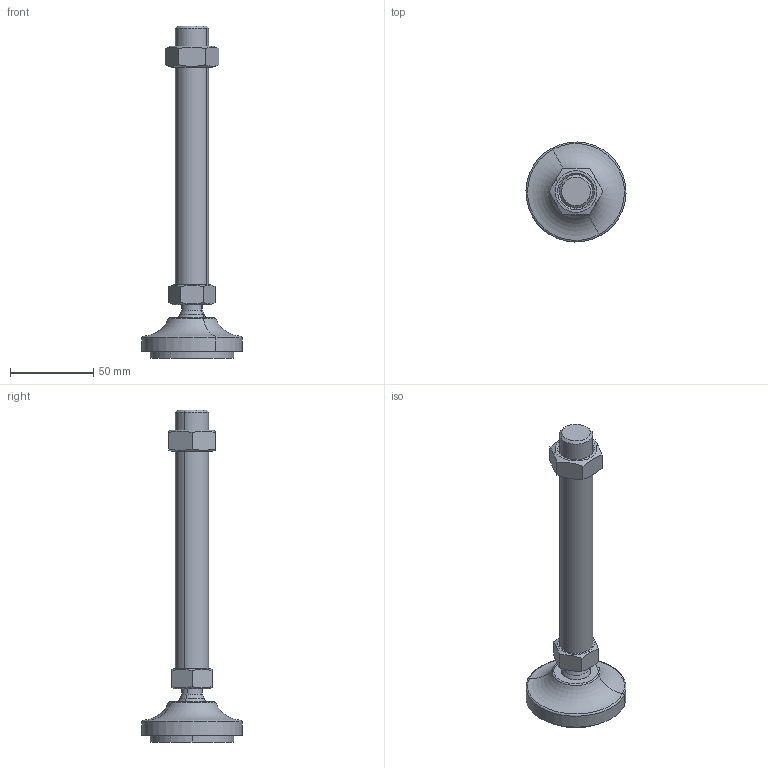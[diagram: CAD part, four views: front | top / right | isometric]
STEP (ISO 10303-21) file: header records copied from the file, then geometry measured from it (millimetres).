
FILE_DESCRIPTION(('CATIA V5 STEP Exchange'),'2;1');
FILE_NAME('C:\Users\ALI OZGUN\Desktop\alhan\saplama2\560602621AV.stp','2017-09-21T10:30:12+00:00',('none'),('none'),'CATIA Version 5 Release 21 GA (IN-10)','CATIA V5 STEP AP203','none');
FILE_SCHEMA(('CONFIG_CONTROL_DESIGN'));
Length unit declared in the file: millimetre
Products named in the file (1): 560602621AV
Bounding box: 59.98 x 59.98 x 199 mm (x, y, z)
Volume: 104946.2 mm3; surface area: 29299 mm2
Topology: 4 solids, 4 shells, 64 faces, 142 edges, 87 vertices
Faces by surface type: plane 22, cylinder 16, cone 16, torus 6, revolution 2, sphere 2
Entity records: 1952 total; most frequent: CARTESIAN_POINT 644, ORIENTED_EDGE 280, DIRECTION 198, EDGE_CURVE 140, AXIS2_PLACEMENT_3D 107, VERTEX_POINT 87, EDGE_LOOP 71, ADVANCED_FACE 64
